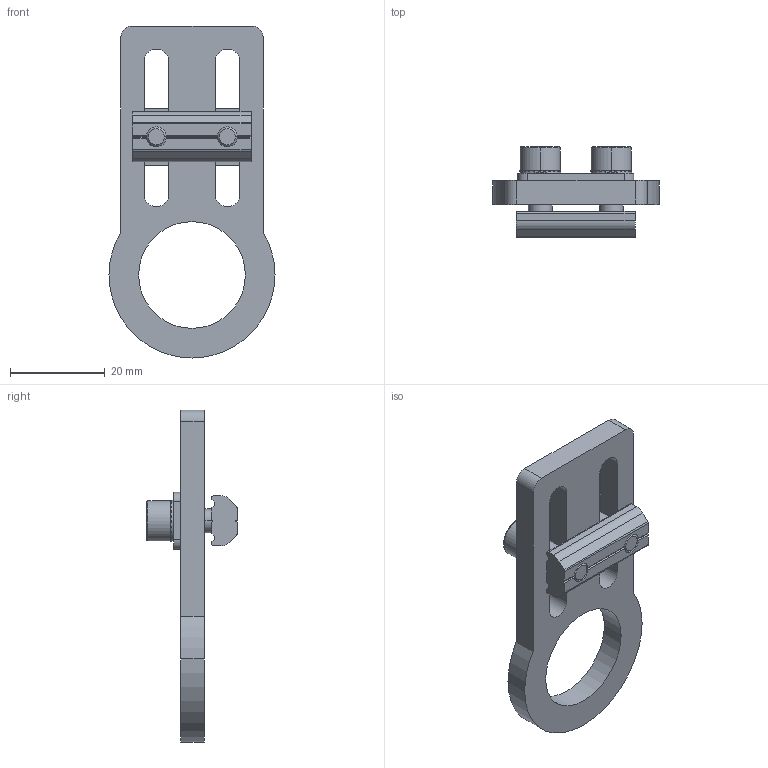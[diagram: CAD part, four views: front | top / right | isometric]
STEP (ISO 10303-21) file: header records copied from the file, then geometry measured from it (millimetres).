
FILE_DESCRIPTION (( 'STEP AP214' ), '1' );
FILE_NAME ('SMBE6-2228T.STEP', '2023-01-10T02:35:05', ( 'Windows User' ), ( 'P R C' ), 'SwSTEP 2.0', 'SolidWorks 2018', '' );
FILE_SCHEMA (( 'AUTOMOTIVE_DESIGN' ));
Length unit declared in the file: millimetre
Products named in the file (1): SMBE6-2228T
Bounding box: 35 x 19 x 70 mm (x, y, z)
Volume: 9270.9 mm3; surface area: 7547.6 mm2
Topology: 7 solids, 7 shells, 512 faces, 1482 edges, 980 vertices
Faces by surface type: plane 447, cylinder 57, cone 4, bspline 4
Entity records: 23032 total; most frequent: CARTESIAN_POINT 3437, ORIENTED_EDGE 2964, DIRECTION 2938, EDGE_CURVE 1482, AXIS2_PLACEMENT_3D 987, VERTEX_POINT 980, VECTOR 964, LINE 964
